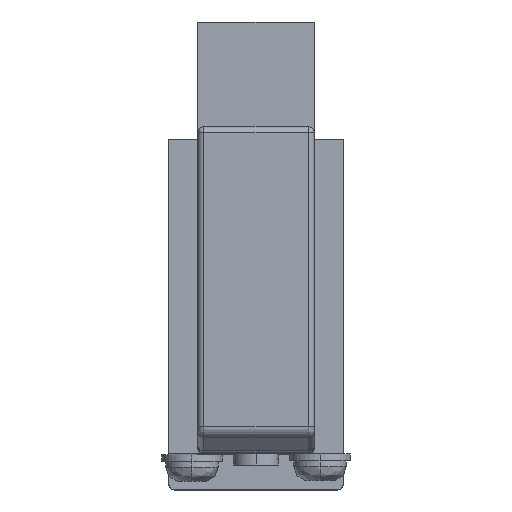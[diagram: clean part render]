
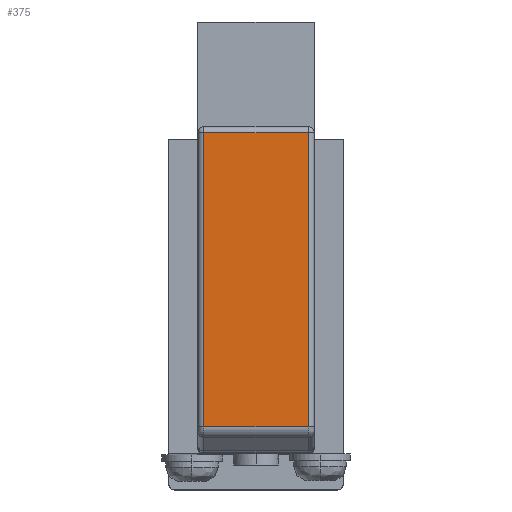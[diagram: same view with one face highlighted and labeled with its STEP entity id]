
A CAD part, top view. The second image highlights one B-rep face of the part: STEP entity #375.
In plain terms, the highlighted planar face has unit normal (0, 0, 1).
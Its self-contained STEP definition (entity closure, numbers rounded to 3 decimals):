
#375=ADVANCED_FACE('',(#1577),#1576,.F.);
#1576=PLANE('',#2784);
#1577=FACE_OUTER_BOUND('',#2785,.T.);
#2781=CARTESIAN_POINT('',(5.4,-27.283,27.4));
#2782=DIRECTION('',(0.,0.,-1.));
#2783=DIRECTION('',(-1.,0.,0.));
#2784=AXIS2_PLACEMENT_3D('',#2781,#2782,#2783);
#2785=EDGE_LOOP('',(#3672,#3673,#3674,#3675));
#3672=ORIENTED_EDGE('',*,*,#4205,.T.);
#3673=ORIENTED_EDGE('',*,*,#4169,.T.);
#3674=ORIENTED_EDGE('',*,*,#4206,.F.);
#3675=ORIENTED_EDGE('',*,*,#4190,.T.);
#4169=EDGE_CURVE('',#6025,#6038,#6045,.T.);
#4190=EDGE_CURVE('',#6156,#6176,#6183,.T.);
#4205=EDGE_CURVE('',#6176,#6025,#6278,.T.);
#4206=EDGE_CURVE('',#6156,#6038,#6284,.T.);
#6025=VERTEX_POINT('',#7943);
#6038=VERTEX_POINT('',#7952);
#6045=LINE('',#7957,#7958);
#6156=VERTEX_POINT('',#8029);
#6176=VERTEX_POINT('',#8043);
#6183=LINE('',#8048,#8049);
#6278=LINE('',#8101,#8102);
#6284=LINE('',#8104,#8105);
#7943=CARTESIAN_POINT('',(-4.5,0.5,27.4));
#7952=CARTESIAN_POINT('',(-4.5,-24.758,27.4));
#7957=CARTESIAN_POINT('',(-4.5,0.5,27.4));
#7958=VECTOR('',#7959,25.258);
#7959=DIRECTION('',(0.,-1.,0.));
#8029=CARTESIAN_POINT('',(4.5,-24.758,27.4));
#8043=CARTESIAN_POINT('',(4.5,0.5,27.4));
#8048=CARTESIAN_POINT('',(4.5,-24.758,27.4));
#8049=VECTOR('',#8050,25.258);
#8050=DIRECTION('',(0.,1.,0.));
#8101=CARTESIAN_POINT('',(4.5,0.5,27.4));
#8102=VECTOR('',#8103,9.);
#8103=DIRECTION('',(-1.,0.,0.));
#8104=CARTESIAN_POINT('',(4.5,-24.758,27.4));
#8105=VECTOR('',#8106,9.);
#8106=DIRECTION('',(-1.,0.,0.));
